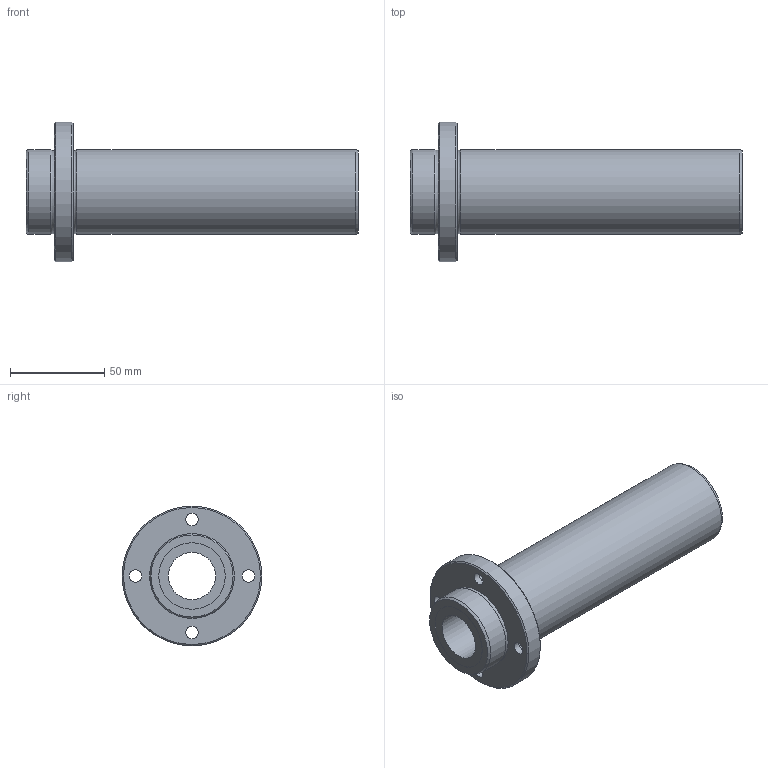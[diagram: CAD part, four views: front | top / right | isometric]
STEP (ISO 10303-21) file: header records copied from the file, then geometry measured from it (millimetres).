
FILE_DESCRIPTION((''),'2;1');
FILE_NAME('D:\製品 (図面)\カタログ用3D\メンテナンスフリー関連\STEP形式\LFLB-MF\LFLB25MF.stp','2010-06-01T15:54:01',('Tsuchiya'),(''),'Autodesk Inventor 10','Autodesk Inventor 10','');
FILE_SCHEMA(('AUTOMOTIVE_DESIGN { 1 0 10303 214 1 1 1 1 }'));
Length unit declared in the file: millimetre
Products named in the file (1): LFLB25MF
Bounding box: 176 x 74 x 74 mm (x, y, z)
Volume: 217116.7 mm3; surface area: 47936.2 mm2
Topology: 1 solids, 1 shells, 30 faces, 54 edges, 34 vertices
Faces by surface type: bspline 14, cylinder 6, plane 6, cone 2, torus 2
Full cylindrical faces by diameter (mm): 25 x1, 35.3 x2, 45 x2, 74 x1
Entity records: 907 total; most frequent: CARTESIAN_POINT 371, DIRECTION 102, ORIENTED_EDGE 68, EDGE_LOOP 68, AXIS2_PLACEMENT_3D 51, FACE_BOUND 38, VERTEX_POINT 34, CIRCLE 34
